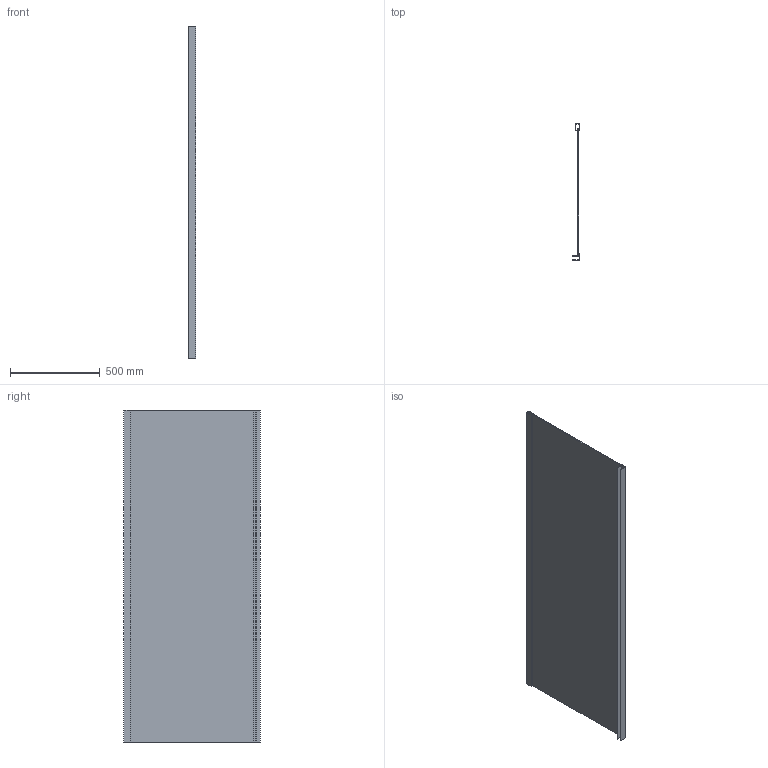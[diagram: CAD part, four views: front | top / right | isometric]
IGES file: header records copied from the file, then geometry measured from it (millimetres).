
Global section: file name: C:\Users\user\Downloads\MOOC_20160920_(2z2)\Bronx 10P 90\Bronx 10P 90.igs; native system: Rhinoceros ( Feb  3 2015 ); preprocessor: Trout Lake IGES 012 Feb  3 2015; date: 161007.092947; units: millimetre
Bounding box: 40.24 x 763.1 x 1850 mm (x, y, z)
Surface area: 3981055.5 mm2 (no closed solid volume)
Topology: 0 solids, 0 shells, 89 faces, 499 edges, 499 vertices
Faces by surface type: bspline 89
